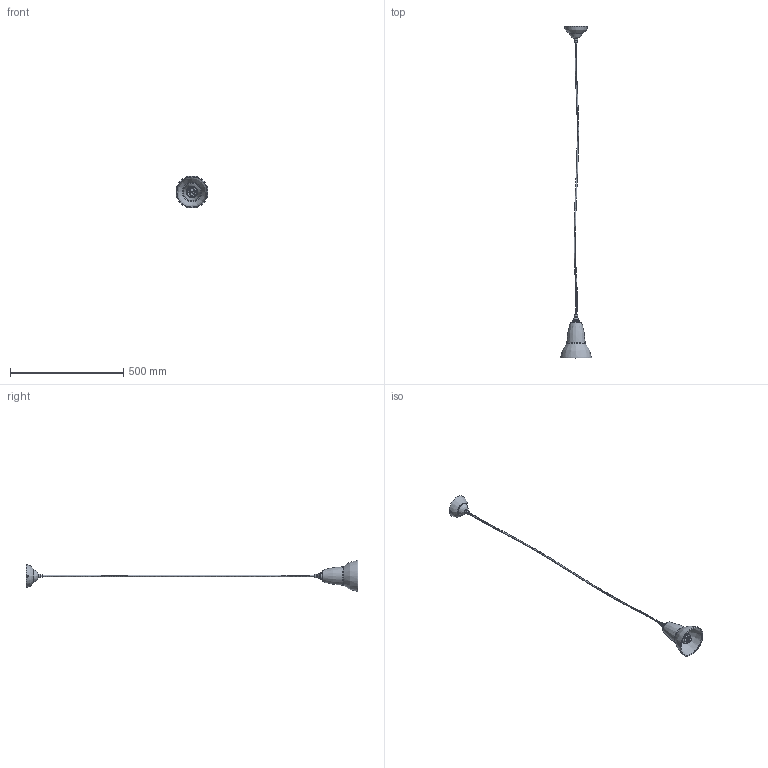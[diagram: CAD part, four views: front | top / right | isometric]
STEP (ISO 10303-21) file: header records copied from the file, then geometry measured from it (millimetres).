
FILE_DESCRIPTION(/* description */ (''),/* implementation_level */ '2;1');
FILE_NAME(/* name */ 'C:/Users/tfalope/Desktop/Original_1227_Pendant_STL_01.step',/* time_stamp */ '2021-10-06T14:33:10+01:00',/* author */ (''),/* organization */ (''),/* preprocessor_version */ 'ST-DEVELOPER v18.1',/* originating_system */ 'Autodesk Translation Framework v10.10.0.1391',/* authorisation */ '');
FILE_SCHEMA (('AUTOMOTIVE_DESIGN { 1 0 10303 214 3 1 1 }'));
Length unit declared in the file: millimetre
Products named in the file (1): Original_1227_Pendant_STEP_01
Bounding box: 140.98 x 1464.5 x 140.98 mm (x, y, z)
Volume: 445802.5 mm3; surface area: 172090.2 mm2
Topology: 1 solids, 3 shells, 264 faces, 650 edges, 422 vertices
Faces by surface type: plane 123, bspline 63, cylinder 50, torus 14, cone 12, sphere 2
Full cylindrical faces by diameter (mm): 8 x2, 13.335 x2, 15 x2, 25 x1, 28.575 x1, 30 x1, 37.5 x1, 38.1 x1, 135 x1
Entity records: 15488 total; most frequent: CARTESIAN_POINT 9373, ORIENTED_EDGE 1298, DIRECTION 1216, EDGE_CURVE 649, AXIS2_PLACEMENT_3D 482, VERTEX_POINT 422, EDGE_LOOP 309, FACE_OUTER_BOUND 264
